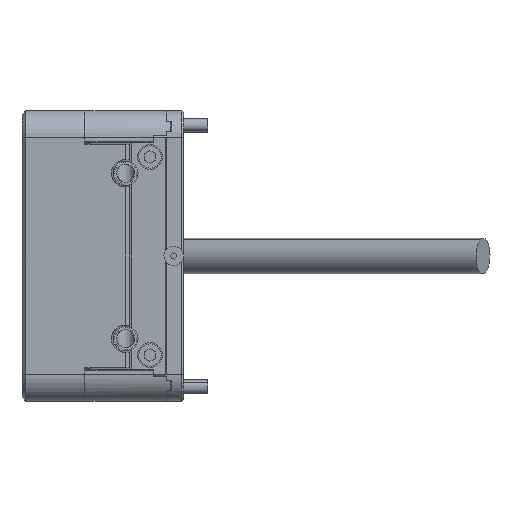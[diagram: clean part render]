
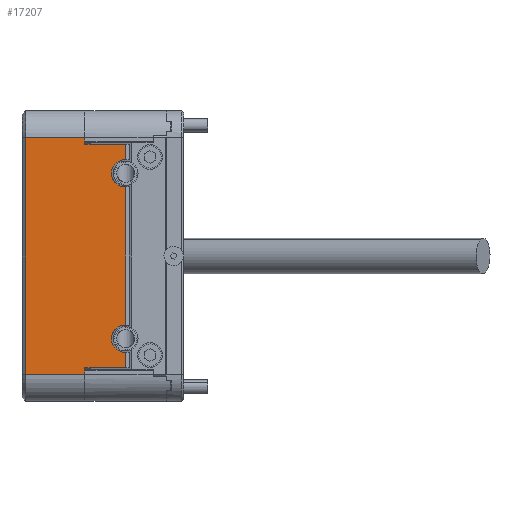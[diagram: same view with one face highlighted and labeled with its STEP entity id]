
A CAD part, left-side view. The second image highlights one B-rep face of the part: STEP entity #17207.
In plain terms, the highlighted planar face has unit normal (-1, 0, 0) as drawn and (0, 1, 0) by its records, which use the part's own axes.
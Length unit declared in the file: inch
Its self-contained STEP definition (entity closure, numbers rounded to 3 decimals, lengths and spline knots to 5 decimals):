
#4 = EDGE_CURVE ( 'NONE', #13019, #7771, #2388, .T. ) ;
#17 = AXIS2_PLACEMENT_3D ( 'NONE', #3157, #5637, #8585 ) ;
#203 = DIRECTION ( 'NONE',  ( 0., 0., 1. ) ) ;
#271 = CARTESIAN_POINT ( 'NONE',  ( -0.966, 2.87, -0.57 ) ) ;
#303 = CARTESIAN_POINT ( 'NONE',  ( -1.346, 2.87, -0.81026 ) ) ;
#464 = LINE ( 'NONE', #3240, #12440 ) ;
#522 = VECTOR ( 'NONE', #6165, 39.37008 ) ;
#595 = CARTESIAN_POINT ( 'NONE',  ( -2.031, 2.87, -0.57 ) ) ;
#614 = LINE ( 'NONE', #17157, #1348 ) ;
#876 = DIRECTION ( 'NONE',  ( 0., -1., 0. ) ) ;
#939 = ORIENTED_EDGE ( 'NONE', *, *, #4281, .T. ) ;
#946 = LINE ( 'NONE', #13418, #6034 ) ;
#1169 = AXIS2_PLACEMENT_3D ( 'NONE', #15310, #5805, #11232 ) ;
#1236 = VERTEX_POINT ( 'NONE', #8319 ) ;
#1284 = CARTESIAN_POINT ( 'NONE',  ( -2.031, 2.87, 0.83 ) ) ;
#1308 = VERTEX_POINT ( 'NONE', #13826 ) ;
#1348 = VECTOR ( 'NONE', #14401, 39.37008 ) ;
#1385 = CARTESIAN_POINT ( 'NONE',  ( -2.031, 2.87, -0.57 ) ) ;
#1650 = LINE ( 'NONE', #1833, #3135 ) ;
#1756 = VERTEX_POINT ( 'NONE', #271 ) ;
#1833 = CARTESIAN_POINT ( 'NONE',  ( 2.031, 2.87, 0. ) ) ;
#2276 = ORIENTED_EDGE ( 'NONE', *, *, #10815, .T. ) ;
#2294 = DIRECTION ( 'NONE',  ( 0., 1., 0. ) ) ;
#2374 = DIRECTION ( 'NONE',  ( 0., 0., 1. ) ) ;
#2388 = LINE ( 'NONE', #13435, #7296 ) ;
#2860 = CARTESIAN_POINT ( 'NONE',  ( -1.346, 2.87, -0.56 ) ) ;
#3135 = VECTOR ( 'NONE', #12524, 39.37008 ) ;
#3157 = CARTESIAN_POINT ( 'NONE',  ( -2.031, 2.87, 0.88 ) ) ;
#3240 = CARTESIAN_POINT ( 'NONE',  ( -0.966, 2.87, -0.56 ) ) ;
#3339 = CARTESIAN_POINT ( 'NONE',  ( 1.346, 2.87, -0.81026 ) ) ;
#3625 = DIRECTION ( 'NONE',  ( 0., 0., 1. ) ) ;
#3722 = CARTESIAN_POINT ( 'NONE',  ( 1.565, 2.87, 0. ) ) ;
#3772 = CARTESIAN_POINT ( 'NONE',  ( -1.651, 2.87, 0.88 ) ) ;
#3868 = DIRECTION ( 'NONE',  ( 1., 0., 0. ) ) ;
#4120 = ORIENTED_EDGE ( 'NONE', *, *, #9115, .F. ) ;
#4281 = EDGE_CURVE ( 'NONE', #12919, #5527, #14967, .T. ) ;
#4481 = LINE ( 'NONE', #303, #9098 ) ;
#4549 = CARTESIAN_POINT ( 'NONE',  ( -1.651, 2.87, 0.83 ) ) ;
#4618 = CARTESIAN_POINT ( 'NONE',  ( 1.346, 2.87, -0.57 ) ) ;
#4710 = ORIENTED_EDGE ( 'NONE', *, *, #12010, .T. ) ;
#5318 = ORIENTED_EDGE ( 'NONE', *, *, #16349, .F. ) ;
#5379 = LINE ( 'NONE', #1284, #7409 ) ;
#5502 = CARTESIAN_POINT ( 'NONE',  ( 1.156, 2.87, -0.37 ) ) ;
#5527 = VERTEX_POINT ( 'NONE', #15124 ) ;
#5532 = CARTESIAN_POINT ( 'NONE',  ( 1.156, 2.87, -0.56 ) ) ;
#5602 = CARTESIAN_POINT ( 'NONE',  ( -2.031, 2.87, -0.57 ) ) ;
#5637 = DIRECTION ( 'NONE',  ( 0., -1., 0. ) ) ;
#5730 = VERTEX_POINT ( 'NONE', #8695 ) ;
#5805 = DIRECTION ( 'NONE',  ( 0., 1., 0. ) ) ;
#5877 = VERTEX_POINT ( 'NONE', #13503 ) ;
#6030 = DIRECTION ( 'NONE',  ( -1., 0., 0. ) ) ;
#6034 = VECTOR ( 'NONE', #2374, 39.37008 ) ;
#6165 = DIRECTION ( 'NONE',  ( -1., 0., 0. ) ) ;
#6247 = VECTOR ( 'NONE', #7859, 39.37008 ) ;
#6348 = CARTESIAN_POINT ( 'NONE',  ( -1.346, 2.87, -0.57 ) ) ;
#6429 = LINE ( 'NONE', #3772, #6247 ) ;
#6485 = VECTOR ( 'NONE', #15723, 39.37008 ) ;
#6583 = VECTOR ( 'NONE', #6030, 39.37008 ) ;
#7296 = VECTOR ( 'NONE', #9685, 39.37008 ) ;
#7297 = AXIS2_PLACEMENT_3D ( 'NONE', #5532, #10962, #16376 ) ;
#7316 = EDGE_CURVE ( 'NONE', #5877, #14431, #1650, .T. ) ;
#7409 = VECTOR ( 'NONE', #3868, 39.37008 ) ;
#7434 = CIRCLE ( 'NONE', #15380, 0.19 ) ;
#7464 = EDGE_LOOP ( 'NONE', ( #9517, #9507, #939, #16481, #10875, #9815, #5318, #12581, #4120, #10414, #14109, #9614, #4710, #15461, #11124, #2276, #14202, #14632 ) ) ;
#7515 = LINE ( 'NONE', #12934, #522 ) ;
#7771 = VERTEX_POINT ( 'NONE', #16316 ) ;
#7859 = DIRECTION ( 'NONE',  ( 0., 0., 1. ) ) ;
#8027 = VERTEX_POINT ( 'NONE', #6348 ) ;
#8172 = EDGE_CURVE ( 'NONE', #14427, #10306, #11402, .T. ) ;
#8264 = VERTEX_POINT ( 'NONE', #4549 ) ;
#8319 = CARTESIAN_POINT ( 'NONE',  ( -0.966, 2.87, -0.56 ) ) ;
#8585 = DIRECTION ( 'NONE',  ( 0., 0., -1. ) ) ;
#8695 = CARTESIAN_POINT ( 'NONE',  ( 1.346, 2.87, -0.56 ) ) ;
#8708 = EDGE_CURVE ( 'NONE', #8027, #1308, #12780, .T. ) ;
#9090 = VECTOR ( 'NONE', #10660, 39.37008 ) ;
#9098 = VECTOR ( 'NONE', #203, 39.37008 ) ;
#9115 = EDGE_CURVE ( 'NONE', #8027, #14427, #4481, .T. ) ;
#9507 = ORIENTED_EDGE ( 'NONE', *, *, #12839, .T. ) ;
#9517 = ORIENTED_EDGE ( 'NONE', *, *, #10282, .T. ) ;
#9547 = EDGE_CURVE ( 'NONE', #1236, #1756, #464, .T. ) ;
#9614 = ORIENTED_EDGE ( 'NONE', *, *, #7316, .T. ) ;
#9661 = AXIS2_PLACEMENT_3D ( 'NONE', #15053, #2294, #17064 ) ;
#9685 = DIRECTION ( 'NONE',  ( 0., 0., -1. ) ) ;
#9815 = ORIENTED_EDGE ( 'NONE', *, *, #9547, .F. ) ;
#9902 = DIRECTION ( 'NONE',  ( 0., 0., -1. ) ) ;
#9952 = EDGE_CURVE ( 'NONE', #5527, #16565, #614, .T. ) ;
#9983 = CARTESIAN_POINT ( 'NONE',  ( 1.565, 2.87, -0.57 ) ) ;
#10129 = VERTEX_POINT ( 'NONE', #3722 ) ;
#10155 = EDGE_CURVE ( 'NONE', #16453, #10129, #13691, .T. ) ;
#10282 = EDGE_CURVE ( 'NONE', #13730, #5730, #15629, .T. ) ;
#10306 = VERTEX_POINT ( 'NONE', #14306 ) ;
#10389 = CARTESIAN_POINT ( 'NONE',  ( 1.156, 2.87, -0.56 ) ) ;
#10414 = ORIENTED_EDGE ( 'NONE', *, *, #8708, .T. ) ;
#10577 = LINE ( 'NONE', #1385, #9090 ) ;
#10660 = DIRECTION ( 'NONE',  ( -1., 0., 0. ) ) ;
#10815 = EDGE_CURVE ( 'NONE', #7771, #10129, #7515, .T. ) ;
#10875 = ORIENTED_EDGE ( 'NONE', *, *, #13316, .T. ) ;
#10962 = DIRECTION ( 'NONE',  ( 0., -1., 0. ) ) ;
#11037 = DIRECTION ( 'NONE',  ( -1., 0., 0. ) ) ;
#11124 = ORIENTED_EDGE ( 'NONE', *, *, #4, .T. ) ;
#11232 = DIRECTION ( 'NONE',  ( 0., 0., 1. ) ) ;
#11402 = CIRCLE ( 'NONE', #1169, 0.19 ) ;
#11716 = CARTESIAN_POINT ( 'NONE',  ( 1.651, 2.87, 0.83 ) ) ;
#11891 = VECTOR ( 'NONE', #12352, 39.37008 ) ;
#12010 = EDGE_CURVE ( 'NONE', #14431, #8264, #6429, .T. ) ;
#12352 = DIRECTION ( 'NONE',  ( 0., 0., 1. ) ) ;
#12440 = VECTOR ( 'NONE', #9902, 39.37008 ) ;
#12524 = DIRECTION ( 'NONE',  ( -1., 0., 0. ) ) ;
#12581 = ORIENTED_EDGE ( 'NONE', *, *, #8172, .F. ) ;
#12780 = LINE ( 'NONE', #595, #6583 ) ;
#12839 = EDGE_CURVE ( 'NONE', #5730, #12919, #7434, .T. ) ;
#12919 = VERTEX_POINT ( 'NONE', #5502 ) ;
#12934 = CARTESIAN_POINT ( 'NONE',  ( 2.031, 2.87, 0. ) ) ;
#13019 = VERTEX_POINT ( 'NONE', #11716 ) ;
#13316 = EDGE_CURVE ( 'NONE', #16565, #1756, #13986, .T. ) ;
#13418 = CARTESIAN_POINT ( 'NONE',  ( -1.565, 2.87, 0. ) ) ;
#13435 = CARTESIAN_POINT ( 'NONE',  ( 1.651, 2.87, 0.88 ) ) ;
#13503 = CARTESIAN_POINT ( 'NONE',  ( -1.565, 2.87, 0. ) ) ;
#13625 = CARTESIAN_POINT ( 'NONE',  ( -1.651, 2.87, 0. ) ) ;
#13691 = LINE ( 'NONE', #15368, #11891 ) ;
#13730 = VERTEX_POINT ( 'NONE', #4618 ) ;
#13826 = CARTESIAN_POINT ( 'NONE',  ( -1.565, 2.87, -0.57 ) ) ;
#13960 = EDGE_CURVE ( 'NONE', #1308, #5877, #946, .T. ) ;
#13986 = LINE ( 'NONE', #5602, #15394 ) ;
#14109 = ORIENTED_EDGE ( 'NONE', *, *, #13960, .T. ) ;
#14202 = ORIENTED_EDGE ( 'NONE', *, *, #10155, .F. ) ;
#14306 = CARTESIAN_POINT ( 'NONE',  ( -1.156, 2.87, -0.37 ) ) ;
#14401 = DIRECTION ( 'NONE',  ( 0., 0., -1. ) ) ;
#14427 = VERTEX_POINT ( 'NONE', #2860 ) ;
#14431 = VERTEX_POINT ( 'NONE', #13625 ) ;
#14632 = ORIENTED_EDGE ( 'NONE', *, *, #16628, .T. ) ;
#14967 = CIRCLE ( 'NONE', #7297, 0.19 ) ;
#15053 = CARTESIAN_POINT ( 'NONE',  ( -1.156, 2.87, -0.56 ) ) ;
#15124 = CARTESIAN_POINT ( 'NONE',  ( 0.966, 2.87, -0.56 ) ) ;
#15171 = PLANE ( 'NONE',  #17 ) ;
#15310 = CARTESIAN_POINT ( 'NONE',  ( -1.156, 2.87, -0.56 ) ) ;
#15368 = CARTESIAN_POINT ( 'NONE',  ( 1.565, 2.87, 0. ) ) ;
#15380 = AXIS2_PLACEMENT_3D ( 'NONE', #10389, #876, #3625 ) ;
#15394 = VECTOR ( 'NONE', #11037, 39.37008 ) ;
#15461 = ORIENTED_EDGE ( 'NONE', *, *, #17066, .T. ) ;
#15629 = LINE ( 'NONE', #3339, #6485 ) ;
#15723 = DIRECTION ( 'NONE',  ( 0., 0., 1. ) ) ;
#16316 = CARTESIAN_POINT ( 'NONE',  ( 1.651, 2.87, 0. ) ) ;
#16349 = EDGE_CURVE ( 'NONE', #10306, #1236, #16477, .T. ) ;
#16376 = DIRECTION ( 'NONE',  ( 0., 0., 1. ) ) ;
#16453 = VERTEX_POINT ( 'NONE', #9983 ) ;
#16477 = CIRCLE ( 'NONE', #9661, 0.19 ) ;
#16481 = ORIENTED_EDGE ( 'NONE', *, *, #9952, .T. ) ;
#16565 = VERTEX_POINT ( 'NONE', #17428 ) ;
#16628 = EDGE_CURVE ( 'NONE', #16453, #13730, #10577, .T. ) ;
#16668 = FACE_OUTER_BOUND ( 'NONE', #7464, .T. ) ;
#17064 = DIRECTION ( 'NONE',  ( 0., 0., 1. ) ) ;
#17066 = EDGE_CURVE ( 'NONE', #8264, #13019, #5379, .T. ) ;
#17157 = CARTESIAN_POINT ( 'NONE',  ( 0.966, 2.87, -0.56 ) ) ;
#17207 = ADVANCED_FACE ( 'NONE', ( #16668 ), #15171, .F. ) ;
#17428 = CARTESIAN_POINT ( 'NONE',  ( 0.966, 2.87, -0.57 ) ) ;
